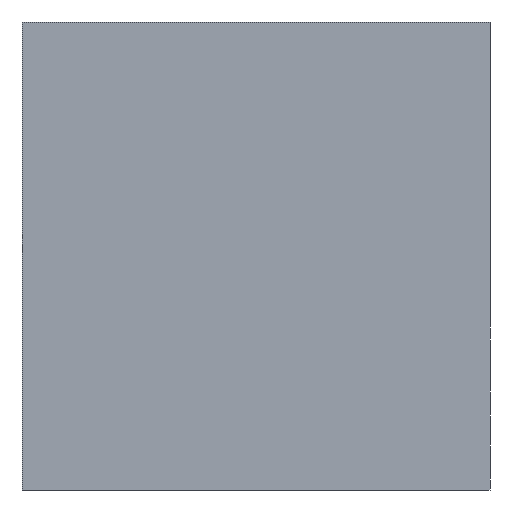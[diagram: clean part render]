
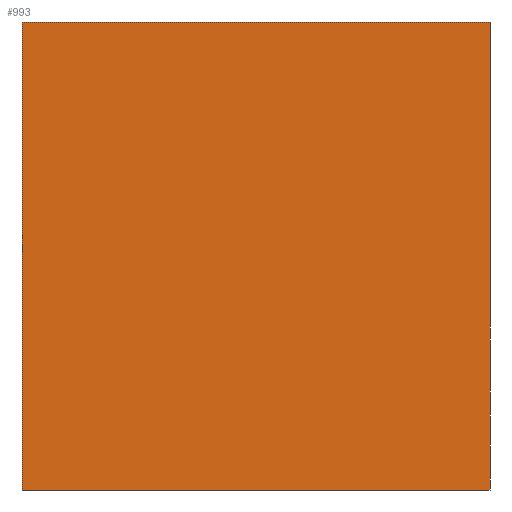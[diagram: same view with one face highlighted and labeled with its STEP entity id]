
A CAD part, left-side view. The second image highlights one B-rep face of the part: STEP entity #993.
In plain terms, the highlighted planar face has unit normal (-1, 0, 0).
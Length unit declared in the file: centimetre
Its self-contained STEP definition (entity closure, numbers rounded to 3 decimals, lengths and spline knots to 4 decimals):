
#2 = FACE_OUTER_BOUND ( 'NONE', #955, .T. ) ;
#11 = DIRECTION ( 'NONE',  ( 0., 0., -1. ) ) ;
#54 = VERTEX_POINT ( 'NONE', #673 ) ;
#65 = EDGE_CURVE ( 'NONE', #54, #694, #829, .T. ) ;
#72 = CARTESIAN_POINT ( 'NONE',  ( 0., 1000., 1000. ) ) ;
#94 = DIRECTION ( 'NONE',  ( 0., -1., 0. ) ) ;
#101 = DIRECTION ( 'NONE',  ( 0., -1., 0. ) ) ;
#121 = ORIENTED_EDGE ( 'NONE', *, *, #65, .T. ) ;
#168 = CARTESIAN_POINT ( 'NONE',  ( 0., 1000., 1000. ) ) ;
#170 = CARTESIAN_POINT ( 'NONE',  ( 0., 1000., 0. ) ) ;
#245 = DIRECTION ( 'NONE',  ( 1., 0., 0. ) ) ;
#248 = LINE ( 'NONE', #977, #794 ) ;
#254 = LINE ( 'NONE', #168, #810 ) ;
#275 = CARTESIAN_POINT ( 'NONE',  ( 0., 1000., 1000. ) ) ;
#311 = DIRECTION ( 'NONE',  ( 0., 0., -1. ) ) ;
#324 = DIRECTION ( 'NONE',  ( 0., 0., -1. ) ) ;
#381 = VECTOR ( 'NONE', #101, 100. ) ;
#480 = EDGE_CURVE ( 'NONE', #534, #694, #248, .T. ) ;
#500 = CARTESIAN_POINT ( 'NONE',  ( 0., 1000., 1000. ) ) ;
#534 = VERTEX_POINT ( 'NONE', #904 ) ;
#553 = ORIENTED_EDGE ( 'NONE', *, *, #480, .F. ) ;
#673 = CARTESIAN_POINT ( 'NONE',  ( 0., 1000., 0. ) ) ;
#691 = LINE ( 'NONE', #275, #984 ) ;
#694 = VERTEX_POINT ( 'NONE', #837 ) ;
#703 = AXIS2_PLACEMENT_3D ( 'NONE', #500, #245, #324 ) ;
#724 = EDGE_CURVE ( 'NONE', #933, #534, #691, .T. ) ;
#794 = VECTOR ( 'NONE', #311, 100. ) ;
#810 = VECTOR ( 'NONE', #11, 100. ) ;
#829 = LINE ( 'NONE', #170, #381 ) ;
#837 = CARTESIAN_POINT ( 'NONE',  ( 0., 0., 0. ) ) ;
#904 = CARTESIAN_POINT ( 'NONE',  ( 0., 0., 1000. ) ) ;
#920 = PLANE ( 'NONE',  #703 ) ;
#933 = VERTEX_POINT ( 'NONE', #72 ) ;
#955 = EDGE_LOOP ( 'NONE', ( #121, #553, #1015, #1011 ) ) ;
#972 = EDGE_CURVE ( 'NONE', #933, #54, #254, .T. ) ;
#977 = CARTESIAN_POINT ( 'NONE',  ( 0., 0., 1000. ) ) ;
#984 = VECTOR ( 'NONE', #94, 100. ) ;
#993 = ADVANCED_FACE ( 'NONE', ( #2 ), #920, .F. ) ;
#1011 = ORIENTED_EDGE ( 'NONE', *, *, #972, .T. ) ;
#1015 = ORIENTED_EDGE ( 'NONE', *, *, #724, .F. ) ;
